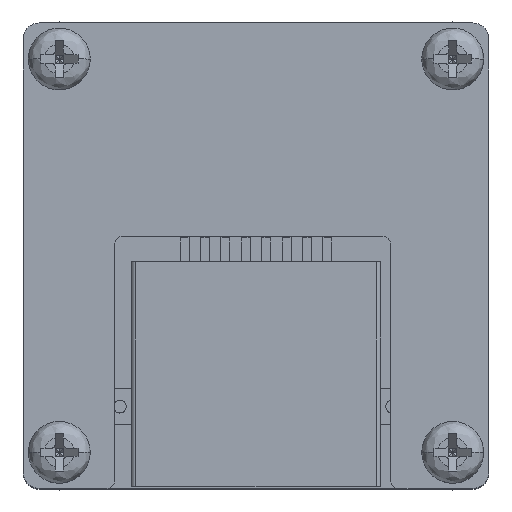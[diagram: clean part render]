
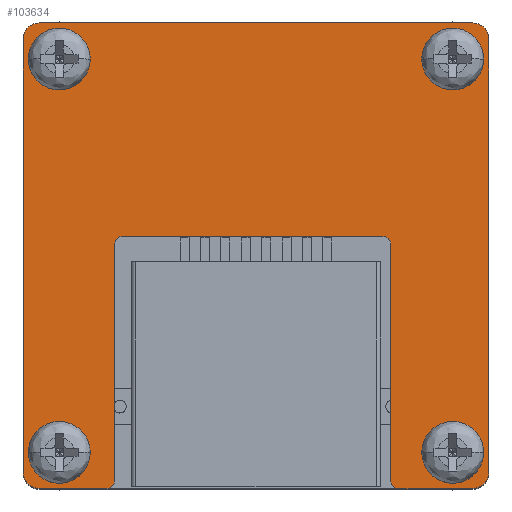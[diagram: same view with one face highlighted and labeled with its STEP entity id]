
A CAD part, top view. The second image highlights one B-rep face of the part: STEP entity #103634.
In plain terms, the highlighted planar face has unit normal (0, 0, 1).
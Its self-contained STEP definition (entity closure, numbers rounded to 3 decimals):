
#11263=CARTESIAN_POINT('',(-13.5,13.5,19.5));
#11264=DIRECTION('',(0.,0.,-1.));
#11265=DIRECTION('',(-1.,0.,0.));
#11266=AXIS2_PLACEMENT_3D('',#11263,#11264,#11265);
#11268=DIRECTION('',(1.,0.,0.));
#11269=VECTOR('',#11268,27.);
#11270=CARTESIAN_POINT('',(-13.5,14.5,19.5));
#11271=LINE('',#11270,#11269);
#11272=CARTESIAN_POINT('',(13.5,13.5,19.5));
#11273=DIRECTION('',(0.,0.,-1.));
#11274=DIRECTION('',(0.,1.,0.));
#11275=AXIS2_PLACEMENT_3D('',#11272,#11273,#11274);
#11277=CARTESIAN_POINT('',(13.5,-13.5,19.5));
#11278=DIRECTION('',(0.,0.,-1.));
#11279=DIRECTION('',(1.,0.,0.));
#11280=AXIS2_PLACEMENT_3D('',#11277,#11278,#11279);
#11282=CARTESIAN_POINT('',(8.9,-14.,19.5));
#11283=DIRECTION('',(0.,0.,-1.));
#11284=DIRECTION('',(0.,-1.,0.));
#11285=AXIS2_PLACEMENT_3D('',#11282,#11283,#11284);
#11287=CARTESIAN_POINT('',(7.9,0.7,19.5));
#11288=DIRECTION('',(0.,0.,1.));
#11289=DIRECTION('',(1.,0.,0.));
#11290=AXIS2_PLACEMENT_3D('',#11287,#11288,#11289);
#11292=CARTESIAN_POINT('',(-8.3,0.7,19.5));
#11293=DIRECTION('',(0.,0.,1.));
#11294=DIRECTION('',(0.,1.,0.));
#11295=AXIS2_PLACEMENT_3D('',#11292,#11293,#11294);
#11297=CARTESIAN_POINT('',(-9.3,-14.,19.5));
#11298=DIRECTION('',(0.,0.,-1.));
#11299=DIRECTION('',(1.,0.,0.));
#11300=AXIS2_PLACEMENT_3D('',#11297,#11298,#11299);
#11302=CARTESIAN_POINT('',(-13.5,-13.5,19.5));
#11303=DIRECTION('',(0.,0.,-1.));
#11304=DIRECTION('',(0.,-1.,0.));
#11305=AXIS2_PLACEMENT_3D('',#11302,#11303,#11304);
#11307=CARTESIAN_POINT('',(-12.25,12.25,19.5));
#11308=DIRECTION('',(0.,0.,1.));
#11309=DIRECTION('',(-1.,0.,0.));
#11310=AXIS2_PLACEMENT_3D('',#11307,#11308,#11309);
#11312=CARTESIAN_POINT('',(-12.25,12.25,19.5));
#11313=DIRECTION('',(0.,0.,1.));
#11314=DIRECTION('',(1.,0.,0.));
#11315=AXIS2_PLACEMENT_3D('',#11312,#11313,#11314);
#11317=CARTESIAN_POINT('',(-12.25,-12.25,19.5));
#11318=DIRECTION('',(0.,0.,1.));
#11319=DIRECTION('',(-1.,0.,0.));
#11320=AXIS2_PLACEMENT_3D('',#11317,#11318,#11319);
#11322=CARTESIAN_POINT('',(-12.25,-12.25,19.5));
#11323=DIRECTION('',(0.,0.,1.));
#11324=DIRECTION('',(1.,0.,0.));
#11325=AXIS2_PLACEMENT_3D('',#11322,#11323,#11324);
#11327=CARTESIAN_POINT('',(12.25,12.25,19.5));
#11328=DIRECTION('',(0.,0.,1.));
#11329=DIRECTION('',(-1.,0.,0.));
#11330=AXIS2_PLACEMENT_3D('',#11327,#11328,#11329);
#11332=CARTESIAN_POINT('',(12.25,12.25,19.5));
#11333=DIRECTION('',(0.,0.,1.));
#11334=DIRECTION('',(1.,0.,0.));
#11335=AXIS2_PLACEMENT_3D('',#11332,#11333,#11334);
#11337=CARTESIAN_POINT('',(12.25,-12.25,19.5));
#11338=DIRECTION('',(0.,0.,1.));
#11339=DIRECTION('',(-1.,0.,0.));
#11340=AXIS2_PLACEMENT_3D('',#11337,#11338,#11339);
#11342=CARTESIAN_POINT('',(12.25,-12.25,19.5));
#11343=DIRECTION('',(0.,0.,1.));
#11344=DIRECTION('',(1.,0.,0.));
#11345=AXIS2_PLACEMENT_3D('',#11342,#11343,#11344);
#11347=DIRECTION('',(0.,-1.,0.));
#11348=VECTOR('',#11347,27.);
#11349=CARTESIAN_POINT('',(-14.5,13.5,19.5));
#11350=LINE('',#11349,#11348);
#11363=DIRECTION('',(1.,0.,0.));
#11364=VECTOR('',#11363,4.2);
#11365=CARTESIAN_POINT('',(-13.5,-14.5,19.5));
#11366=LINE('',#11365,#11364);
#11387=DIRECTION('',(0.,1.,0.));
#11388=VECTOR('',#11387,14.7);
#11389=CARTESIAN_POINT('',(-8.8,-14.,19.5));
#11390=LINE('',#11389,#11388);
#11403=DIRECTION('',(1.,0.,0.));
#11404=VECTOR('',#11403,16.2);
#11405=CARTESIAN_POINT('',(-8.3,1.2,19.5));
#11406=LINE('',#11405,#11404);
#11419=DIRECTION('',(0.,-1.,0.));
#11420=VECTOR('',#11419,14.7);
#11421=CARTESIAN_POINT('',(8.4,0.7,19.5));
#11422=LINE('',#11421,#11420);
#11427=DIRECTION('',(1.,0.,0.));
#11428=VECTOR('',#11427,4.6);
#11429=CARTESIAN_POINT('',(8.9,-14.5,19.5));
#11430=LINE('',#11429,#11428);
#11443=DIRECTION('',(0.,1.,0.));
#11444=VECTOR('',#11443,27.);
#11445=CARTESIAN_POINT('',(14.5,-13.5,19.5));
#11446=LINE('',#11445,#11444);
#83405=CARTESIAN_POINT('',(-13.5,14.5,19.5));
#83406=VERTEX_POINT('',#83405);
#83407=CARTESIAN_POINT('',(-14.5,13.5,19.5));
#83408=VERTEX_POINT('',#83407);
#83409=CARTESIAN_POINT('',(13.5,14.5,19.5));
#83410=VERTEX_POINT('',#83409);
#83411=CARTESIAN_POINT('',(14.5,13.5,19.5));
#83412=VERTEX_POINT('',#83411);
#83413=CARTESIAN_POINT('',(14.5,-13.5,19.5));
#83414=CARTESIAN_POINT('',(13.5,-14.5,19.5));
#83415=VERTEX_POINT('',#83413);
#83416=VERTEX_POINT('',#83414);
#83417=CARTESIAN_POINT('',(8.9,-14.5,19.5));
#83418=CARTESIAN_POINT('',(8.4,-14.,19.5));
#83419=VERTEX_POINT('',#83417);
#83420=VERTEX_POINT('',#83418);
#83421=CARTESIAN_POINT('',(8.4,0.7,19.5));
#83422=VERTEX_POINT('',#83421);
#83423=CARTESIAN_POINT('',(7.9,1.2,19.5));
#83424=VERTEX_POINT('',#83423);
#83425=CARTESIAN_POINT('',(-8.3,1.2,19.5));
#83426=VERTEX_POINT('',#83425);
#83427=CARTESIAN_POINT('',(-8.8,0.7,19.5));
#83428=VERTEX_POINT('',#83427);
#83429=CARTESIAN_POINT('',(-8.8,-14.,19.5));
#83430=VERTEX_POINT('',#83429);
#83431=CARTESIAN_POINT('',(-9.3,-14.5,19.5));
#83432=VERTEX_POINT('',#83431);
#83433=CARTESIAN_POINT('',(-13.5,-14.5,19.5));
#83434=CARTESIAN_POINT('',(-14.5,-13.5,19.5));
#83435=VERTEX_POINT('',#83433);
#83436=VERTEX_POINT('',#83434);
#89600=CARTESIAN_POINT('',(-14.175,12.25,19.5));
#89601=CARTESIAN_POINT('',(-10.325,12.25,19.5));
#89602=VERTEX_POINT('',#89600);
#89603=VERTEX_POINT('',#89601);
#89604=CARTESIAN_POINT('',(-14.175,-12.25,19.5));
#89605=CARTESIAN_POINT('',(-10.325,-12.25,19.5));
#89606=VERTEX_POINT('',#89604);
#89607=VERTEX_POINT('',#89605);
#89608=CARTESIAN_POINT('',(10.325,12.25,19.5));
#89609=CARTESIAN_POINT('',(14.175,12.25,19.5));
#89610=VERTEX_POINT('',#89608);
#89611=VERTEX_POINT('',#89609);
#89612=CARTESIAN_POINT('',(10.325,-12.25,19.5));
#89613=CARTESIAN_POINT('',(14.175,-12.25,19.5));
#89614=VERTEX_POINT('',#89612);
#89615=VERTEX_POINT('',#89613);
#103573=CARTESIAN_POINT('',(0.,0.,19.5));
#103574=DIRECTION('',(0.,0.,1.));
#103575=DIRECTION('',(1.,0.,0.));
#103576=AXIS2_PLACEMENT_3D('',#103573,#103574,#103575);
#103577=PLANE('',#103576);
#103579=ORIENTED_EDGE('',*,*,#103578,.F.);
#103580=ORIENTED_EDGE('',*,*,#103552,.T.);
#103581=ORIENTED_EDGE('',*,*,#103564,.T.);
#103583=ORIENTED_EDGE('',*,*,#103582,.T.);
#103585=ORIENTED_EDGE('',*,*,#103584,.F.);
#103587=ORIENTED_EDGE('',*,*,#103586,.T.);
#103589=ORIENTED_EDGE('',*,*,#103588,.F.);
#103591=ORIENTED_EDGE('',*,*,#103590,.T.);
#103593=ORIENTED_EDGE('',*,*,#103592,.F.);
#103595=ORIENTED_EDGE('',*,*,#103594,.T.);
#103597=ORIENTED_EDGE('',*,*,#103596,.F.);
#103599=ORIENTED_EDGE('',*,*,#103598,.T.);
#103601=ORIENTED_EDGE('',*,*,#103600,.F.);
#103603=ORIENTED_EDGE('',*,*,#103602,.T.);
#103605=ORIENTED_EDGE('',*,*,#103604,.F.);
#103607=ORIENTED_EDGE('',*,*,#103606,.T.);
#103608=EDGE_LOOP('',(#103579,#103580,#103581,#103583,#103585,#103587,#103589,
#103591,#103593,#103595,#103597,#103599,#103601,#103603,#103605,#103607));
#103609=FACE_OUTER_BOUND('',#103608,.F.);
#103611=ORIENTED_EDGE('',*,*,#103610,.T.);
#103613=ORIENTED_EDGE('',*,*,#103612,.T.);
#103614=EDGE_LOOP('',(#103611,#103613));
#103615=FACE_BOUND('',#103614,.F.);
#103617=ORIENTED_EDGE('',*,*,#103616,.T.);
#103619=ORIENTED_EDGE('',*,*,#103618,.T.);
#103620=EDGE_LOOP('',(#103617,#103619));
#103621=FACE_BOUND('',#103620,.F.);
#103623=ORIENTED_EDGE('',*,*,#103622,.T.);
#103625=ORIENTED_EDGE('',*,*,#103624,.T.);
#103626=EDGE_LOOP('',(#103623,#103625));
#103627=FACE_BOUND('',#103626,.F.);
#103629=ORIENTED_EDGE('',*,*,#103628,.T.);
#103631=ORIENTED_EDGE('',*,*,#103630,.T.);
#103632=EDGE_LOOP('',(#103629,#103631));
#103633=FACE_BOUND('',#103632,.F.);
#103634=ADVANCED_FACE('',(#103609,#103615,#103621,#103627,#103633),#103577,.T.);
#11267=CIRCLE('',#11266,1.);
#11276=CIRCLE('',#11275,1.);
#11281=CIRCLE('',#11280,1.);
#11286=CIRCLE('',#11285,0.5);
#11291=CIRCLE('',#11290,0.5);
#11296=CIRCLE('',#11295,0.5);
#11301=CIRCLE('',#11300,0.5);
#11306=CIRCLE('',#11305,1.);
#11311=CIRCLE('',#11310,1.925);
#11316=CIRCLE('',#11315,1.925);
#11321=CIRCLE('',#11320,1.925);
#11326=CIRCLE('',#11325,1.925);
#11331=CIRCLE('',#11330,1.925);
#11336=CIRCLE('',#11335,1.925);
#11341=CIRCLE('',#11340,1.925);
#11346=CIRCLE('',#11345,1.925);
#103552=EDGE_CURVE('',#83408,#83406,#11267,.T.);
#103564=EDGE_CURVE('',#83406,#83410,#11271,.T.);
#103578=EDGE_CURVE('',#83408,#83436,#11350,.T.);
#103582=EDGE_CURVE('',#83410,#83412,#11276,.T.);
#103584=EDGE_CURVE('',#83415,#83412,#11446,.T.);
#103586=EDGE_CURVE('',#83415,#83416,#11281,.T.);
#103588=EDGE_CURVE('',#83419,#83416,#11430,.T.);
#103590=EDGE_CURVE('',#83419,#83420,#11286,.T.);
#103592=EDGE_CURVE('',#83422,#83420,#11422,.T.);
#103594=EDGE_CURVE('',#83422,#83424,#11291,.T.);
#103596=EDGE_CURVE('',#83426,#83424,#11406,.T.);
#103598=EDGE_CURVE('',#83426,#83428,#11296,.T.);
#103600=EDGE_CURVE('',#83430,#83428,#11390,.T.);
#103602=EDGE_CURVE('',#83430,#83432,#11301,.T.);
#103604=EDGE_CURVE('',#83435,#83432,#11366,.T.);
#103606=EDGE_CURVE('',#83435,#83436,#11306,.T.);
#103610=EDGE_CURVE('',#89602,#89603,#11311,.T.);
#103612=EDGE_CURVE('',#89603,#89602,#11316,.T.);
#103616=EDGE_CURVE('',#89606,#89607,#11321,.T.);
#103618=EDGE_CURVE('',#89607,#89606,#11326,.T.);
#103622=EDGE_CURVE('',#89610,#89611,#11331,.T.);
#103624=EDGE_CURVE('',#89611,#89610,#11336,.T.);
#103628=EDGE_CURVE('',#89614,#89615,#11341,.T.);
#103630=EDGE_CURVE('',#89615,#89614,#11346,.T.);
